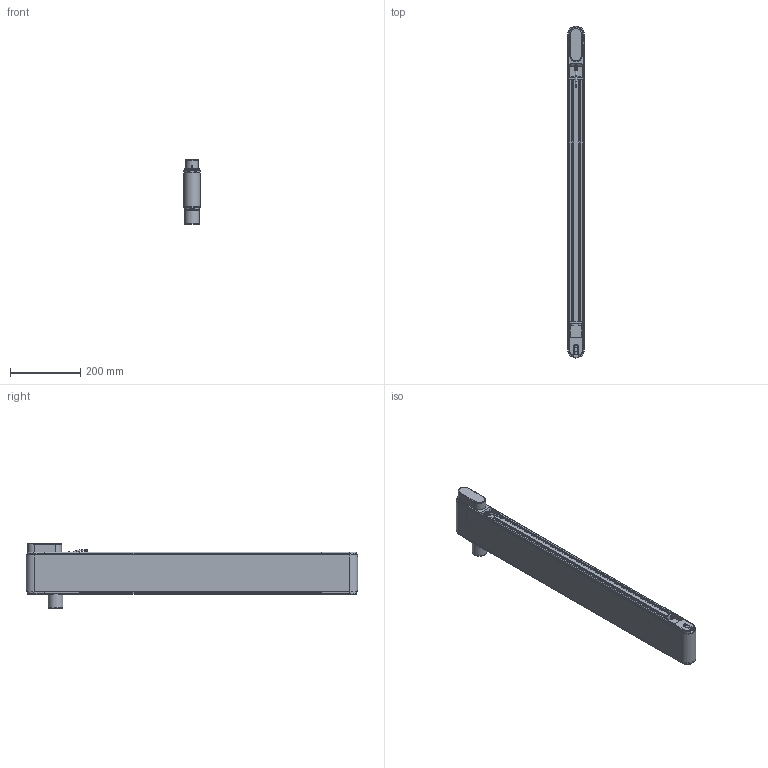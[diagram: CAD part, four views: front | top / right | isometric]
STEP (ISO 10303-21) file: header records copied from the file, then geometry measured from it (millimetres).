
FILE_DESCRIPTION(/* description */ (''),/* implementation_level */ '2;1');
FILE_NAME(/* name */ 'G:\DATEN\CAD\Förderband\Marketing\3D-Modelle (Standard)\FR-40-120-Q\FR-40-120-Q-900-K (Motorendrohr 40 mm).stp',/* time_stamp */ '2019-05-09T08:33:05+02:00',/* author */ ('melanie.ochs'),/* organization */ (''),/* preprocessor_version */ 'ST-DEVELOPER v17',/* originating_system */ 'Autodesk Inventor 2019',/* authorisation */ '');
FILE_SCHEMA (('CONFIG_CONTROL_DESIGN'));
Length unit declared in the file: centimetre
Products named in the file (1): FR-40-120-Q-900-K (Motorendrohr 40 mm)
Bounding box: 46.6 x 946.6 x 185 mm (x, y, z)
Volume: 2108694.6 mm3; surface area: 1184297 mm2
Topology: 31 solids, 32 shells, 885 faces, 2399 edges, 1632 vertices
Faces by surface type: plane 443, cylinder 282, cone 69, bspline 61, torus 30
Full cylindrical faces by diameter (mm): 1 x6, 4 x6, 4.3 x4, 4.65 x1, 4.917 x1, 5 x11, 5.5 x8, 6 x2, 6.5 x1, 6.773 x1, 6.917 x2, 8 x7, 8.3 x16, 8.5 x8, 8.773 x1, 10 x1, 11 x1, 12 x3, 25 x2, 28 x4, 40.917 x1, 42 x1, 44 x2
Entity records: 29705 total; most frequent: CARTESIAN_POINT 6255, ORIENTED_EDGE 4762, DIRECTION 4634, EDGE_CURVE 2381, AXIS2_PLACEMENT_3D 1685, VERTEX_POINT 1632, LINE 1264, VECTOR 1264
